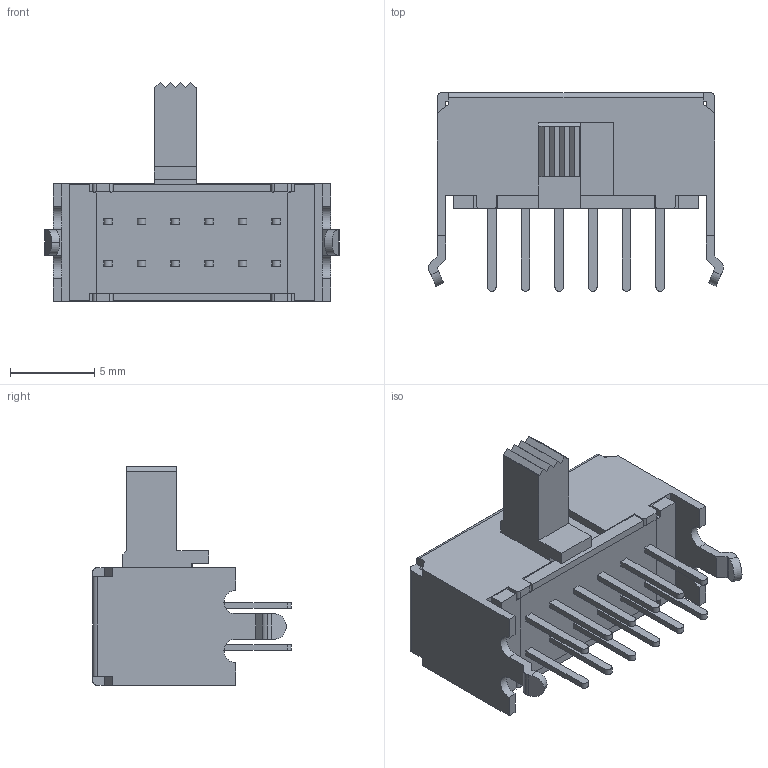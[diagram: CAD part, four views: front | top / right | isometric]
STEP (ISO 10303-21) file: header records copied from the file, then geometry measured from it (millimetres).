
FILE_DESCRIPTION (( 'STEP AP214' ), '1' );
FILE_NAME ('SSSF141000.STEP', '2011-04-04T06:04:28', ( '' ), ( '' ), 'SwSTEP 2.0', 'SolidWorks 2007', '' );
FILE_SCHEMA (( 'AUTOMOTIVE_DESIGN' ));
Length unit declared in the file: millimetre
Products named in the file (1): SSSF141000
Bounding box: 17.52 x 11.8 x 13 mm (x, y, z)
Volume: 855.9 mm3; surface area: 838.3 mm2
Topology: 1 solids, 1 shells, 192 faces, 526 edges, 344 vertices
Faces by surface type: plane 155, cylinder 37
Entity records: 7256 total; most frequent: CARTESIAN_POINT 1063, ORIENTED_EDGE 1052, DIRECTION 986, EDGE_CURVE 526, LINE 452, VECTOR 452, VERTEX_POINT 344, AXIS2_PLACEMENT_3D 267
